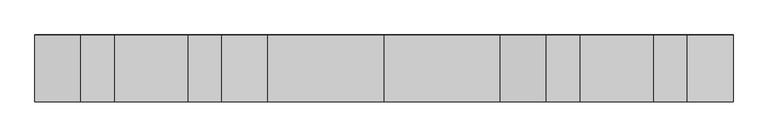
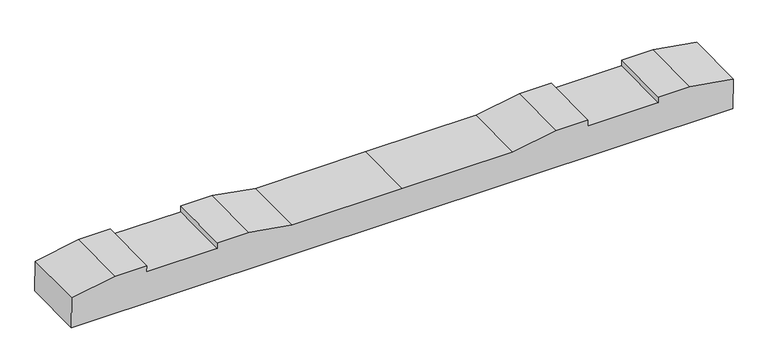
"""IFC4 building model written with IfcOpenShell, lengths in millimetres: proxy geometry, 轨枕-立面角度 : 轨枕-立面角度."""

from ifc_helpers import new_model, si_unit, frame, origin, place, context, project, spatial, polyline, outline, extrude, source, transform, mapped, element, save


def generic_models_3ec5e151(model_context):
    return source(origin(), model_context, "Body", "SweptSolid", [
        extrude(outline(polyline([(0.0, 0.0), (2099.7669328, 0.0), (2099.7669328, -100.020689), (1961.8834664, -124.5000001), (1861.8834664, -124.5000001), (1861.8834664, -104.5000001), (1637.8834664, -104.5000001), (1637.8834664, -124.5000001), (1537.8834664, -124.5000001), (1399.8834664, -100.0), (1049.8834664, -100.0), (699.8834664, -100.0), (561.8834664, -124.5000001), (461.8834664, -124.5000001), (461.8834664, -104.5000001), (237.8834664, -104.5000001), (237.8834664, -124.5000001), (137.8834664, -124.5000001), (0.0, -100.020689), (0.0, 0.0)])), frame((-1049.8834664, -98.5244528, -105.8923142), z_axis=(0.0, 0.9999016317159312, 0.014025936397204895), x_axis=(1.0, 0.0, 0.0)), (0.0, 0.0, 1.0), 200.0),
    ])


if __name__ == "__main__":
    model = new_model("IFC4")
    model_context = context("Model", 3, world=origin())
    ifc_project = project(units=[si_unit("LENGTHUNIT", "METRE", prefix="MILLI")], contexts=[model_context])
    site = spatial("IfcSite", under=ifc_project)
    building = spatial("IfcBuilding", under=site)
    placement = place(None, origin())
    generic_models_shape = generic_models_3ec5e151(model_context)
    element("IfcBuildingElementProxy", 1, Name="轨枕-立面角度 : 轨枕-立面角度", ObjectType="轨枕-立面角度 : 轨枕-立面角度", at=placement, inside=building, context=model_context, shape_type="MappedRepresentation", body=[
        mapped(generic_models_shape, transform((0.0, 0.0, 0.0), x_axis=(1.0, 0.0, 0.0), y_axis=(0.0, 1.0, 0.0), z_axis=(0.0, 0.0, 1.0))),
    ])
    save(model, "model.ifc")
